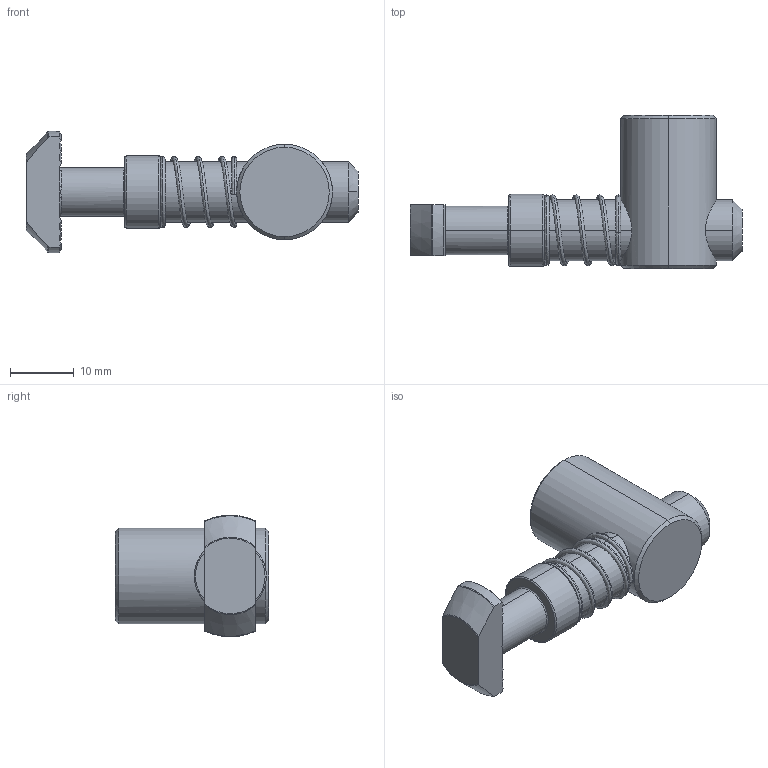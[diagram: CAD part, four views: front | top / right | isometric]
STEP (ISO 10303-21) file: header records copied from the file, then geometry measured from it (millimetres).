
FILE_DESCRIPTION (( 'STEP AP214' ), '1' );
FILE_NAME ('23926_ZENVERW.STEP', '2016-11-22T10:44:13', ( '' ), ( '' ), 'SwSTEP 2.0', 'SolidWorks 2016', '' );
FILE_SCHEMA (( 'AUTOMOTIVE_DESIGN' ));
Length unit declared in the file: millimetre
Products named in the file (5): 099b081511s-1_Standard; 4din914m1212m_4 din 914 m12 12; 099b081511s-3_Standard; 099b081511w-2_Standard; 23926_ZENVERW
Assembly tree (4 placements, depth 2):
  23926_ZENVERW
    099b081511w-2_Standard
    4din914m1212m_4 din 914 m12 12
    099b081511s-1_Standard
    099b081511s-3_Standard
Bounding box: 52 x 24 x 19 mm (x, y, z)
Volume: 6677.6 mm3; surface area: 5307.7 mm2
Topology: 4 solids, 4 shells, 130 faces, 334 edges, 210 vertices
Faces by surface type: plane 38, cone 33, bspline 30, cylinder 29
Entity records: 10404 total; most frequent: CARTESIAN_POINT 5923, ORIENTED_EDGE 658, DIRECTION 545, EDGE_CURVE 329, AXIS2_PLACEMENT_3D 222, VERTEX_POINT 210, UNCERTAINTY_MEASURE_WITH_UNIT 143, COLOUR_RGB 138
